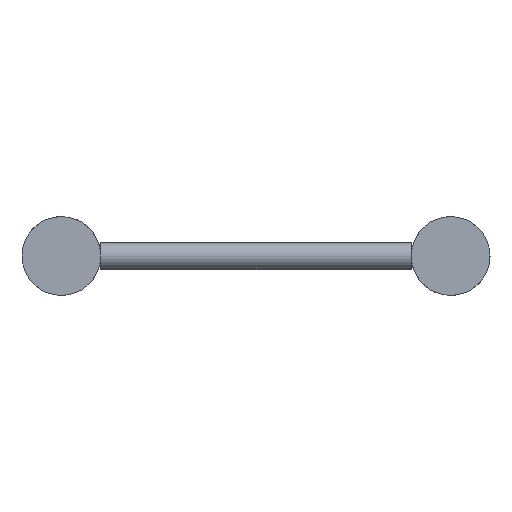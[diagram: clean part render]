
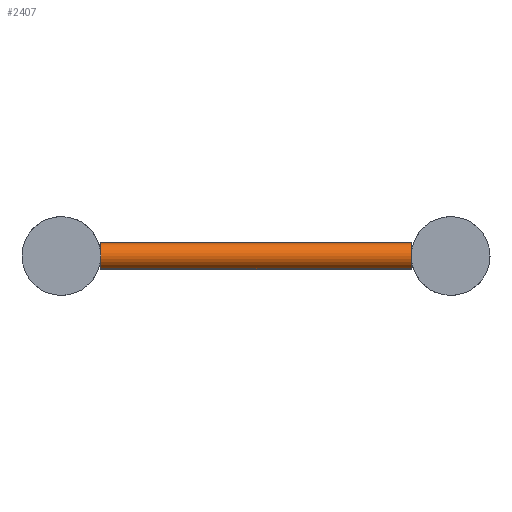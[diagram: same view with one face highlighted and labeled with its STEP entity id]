
A CAD part, left-side view. The second image highlights one B-rep face of the part: STEP entity #2407.
In plain terms, the highlighted cylindrical face has radius 8 mm (diameter 16 mm), a full revolution.
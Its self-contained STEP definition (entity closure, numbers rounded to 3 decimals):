
#493=FACE_BOUND('',#857,.T.);
#684=FACE_OUTER_BOUND('',#856,.T.);
#856=EDGE_LOOP('',(#1857,#1858));
#857=EDGE_LOOP('',(#1859,#1860));
#973=CIRCLE('',#2646,8.);
#974=CIRCLE('',#2648,8.);
#975=CIRCLE('',#2650,8.);
#976=CIRCLE('',#2652,8.);
#1169=VERTEX_POINT('',#4251);
#1170=VERTEX_POINT('',#4252);
#1171=VERTEX_POINT('',#4256);
#1172=VERTEX_POINT('',#4257);
#1464=EDGE_CURVE('',#1170,#1169,#973,.T.);
#1466=EDGE_CURVE('',#1172,#1171,#974,.T.);
#1467=EDGE_CURVE('',#1169,#1170,#975,.T.);
#1468=EDGE_CURVE('',#1171,#1172,#976,.T.);
#1857=ORIENTED_EDGE('',*,*,#1464,.T.);
#1858=ORIENTED_EDGE('',*,*,#1467,.T.);
#1859=ORIENTED_EDGE('',*,*,#1466,.T.);
#1860=ORIENTED_EDGE('',*,*,#1468,.T.);
#2131=CYLINDRICAL_SURFACE('',#2651,8.);
#2407=ADVANCED_FACE('',(#684,#493),#2131,.T.);
#2646=AXIS2_PLACEMENT_3D('',#4254,#3196,#3197);
#2648=AXIS2_PLACEMENT_3D('',#4259,#3201,#3202);
#2650=AXIS2_PLACEMENT_3D('',#4261,#3205,#3206);
#2651=AXIS2_PLACEMENT_3D('',#4262,#3207,#3208);
#2652=AXIS2_PLACEMENT_3D('',#4263,#3209,#3210);
#3196=DIRECTION('center_axis',(0.,1.,0.));
#3197=DIRECTION('ref_axis',(-1.,0.,0.));
#3201=DIRECTION('center_axis',(0.,-1.,0.));
#3202=DIRECTION('ref_axis',(-1.,0.,0.));
#3205=DIRECTION('center_axis',(0.,1.,0.));
#3206=DIRECTION('ref_axis',(-1.,0.,0.));
#3207=DIRECTION('center_axis',(0.,1.,0.));
#3208=DIRECTION('ref_axis',(-1.,0.,0.));
#3209=DIRECTION('center_axis',(0.,-1.,0.));
#3210=DIRECTION('ref_axis',(-1.,0.,0.));
#4251=CARTESIAN_POINT('',(52.,24.15,0.));
#4252=CARTESIAN_POINT('',(68.,24.15,0.));
#4254=CARTESIAN_POINT('Origin',(60.,24.15,0.));
#4256=CARTESIAN_POINT('',(52.,214.85,0.));
#4257=CARTESIAN_POINT('',(68.,214.85,0.));
#4259=CARTESIAN_POINT('Origin',(60.,214.85,0.));
#4261=CARTESIAN_POINT('Origin',(60.,24.15,0.));
#4262=CARTESIAN_POINT('Origin',(60.,119.5,0.));
#4263=CARTESIAN_POINT('Origin',(60.,214.85,0.));
